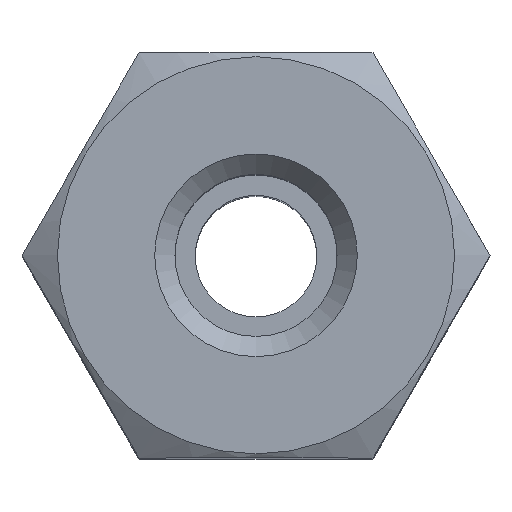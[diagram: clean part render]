
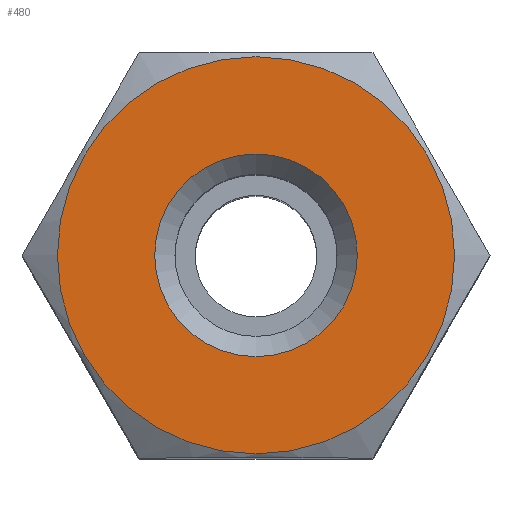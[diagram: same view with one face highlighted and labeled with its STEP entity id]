
A CAD part, top view. The second image highlights one B-rep face of the part: STEP entity #480.
In plain terms, the highlighted planar face has unit normal (0, 0, 1).
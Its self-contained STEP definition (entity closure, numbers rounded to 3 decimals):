
#480=ADVANCED_FACE('', (#490,#500), #510, .T.);
#2740=AXIS2_PLACEMENT_3D('Ax2Pl3d', #2750, #2760, #2770);
#3100=AXIS2_PLACEMENT_3D('Ax2Pl3d', #3110, #3120, #3130);
#3140=AXIS2_PLACEMENT_3D('Ax2Pl3d', #3150, #3160, #3170);
#2750=CARTESIAN_POINT('HicPkt', (10.949,8.958,
33.946));
#9210=CARTESIAN_POINT('', (10.949,4.058,33.946));
#3110=CARTESIAN_POINT('HicPkt', (15.849,8.958,
33.946));
#3150=CARTESIAN_POINT('HicPkt', (10.949,8.958,
33.946));
#9410=CARTESIAN_POINT('', (10.949,11.458,33.946));
#10070=CIRCLE('Circle', #2740, 4.9);
#10090=CIRCLE('Circle', #3140, 2.5);
#2760=DIRECTION('Axis', (0.,0.,-1.));
#2770=DIRECTION('RefDirection', (-1.,-0.,0.));
#3120=DIRECTION('Axis', (0.,0.,1.));
#3130=DIRECTION('RefDirection', (1.,0.,-0.));
#3160=DIRECTION('Axis', (0.,0.,-1.));
#3170=DIRECTION('RefDirection', (-1.,-0.,0.));
#13940=EDGE_CURVE('', #13950, #13950, #10070, .T.);
#14340=EDGE_CURVE('', #14350, #14350, #10090, .T.);
#16260=EDGE_LOOP('Edge_loop', (#16270));
#16280=EDGE_LOOP('Edge_loop', (#16290));
#500=FACE_BOUND('', #16280, .T.);
#490=FACE_OUTER_BOUND('Face_outer_bound', #16260, .T.);
#16270=ORIENTED_EDGE('', *, *, #13940, .F.);
#16290=ORIENTED_EDGE('', *, *, #14340, .T.);
#510=PLANE('Plane', #3100);
#13950=VERTEX_POINT('', #9210);
#14350=VERTEX_POINT('', #9410);
